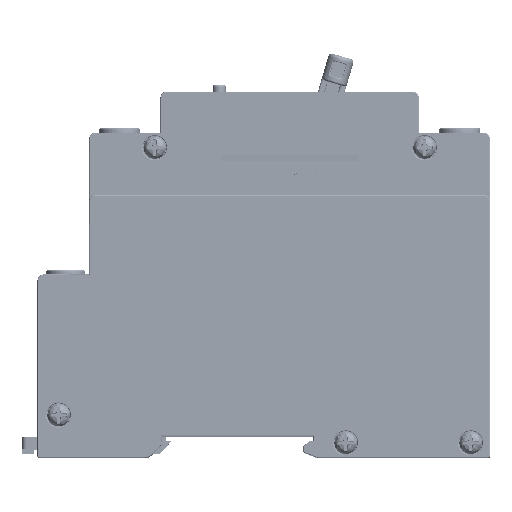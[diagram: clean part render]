
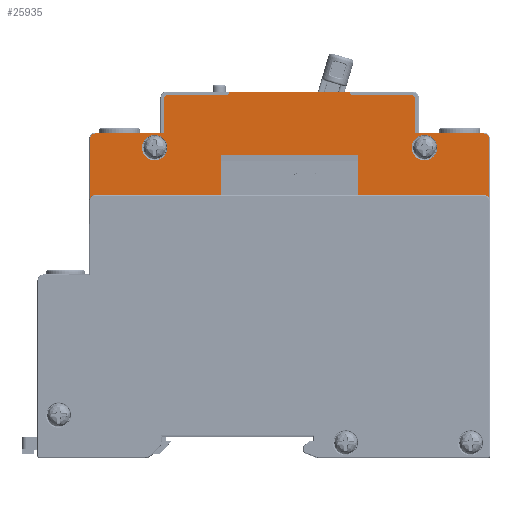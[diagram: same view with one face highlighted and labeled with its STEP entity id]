
A CAD part, top view. The second image highlights one B-rep face of the part: STEP entity #25935.
In plain terms, the highlighted planar face has unit normal (0, 0, 1).
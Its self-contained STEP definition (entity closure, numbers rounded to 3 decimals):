
#9750=CIRCLE('',#208050,1.5);
#9751=CIRCLE('',#208051,1.3);
#9752=CIRCLE('',#208052,1.);
#9753=CIRCLE('',#208053,1.);
#9754=CIRCLE('',#208054,1.3);
#9755=CIRCLE('',#208055,1.5);
#9756=CIRCLE('',#208056,2.95);
#9757=CIRCLE('',#208057,2.95);
#17914=FACE_BOUND('',#54270,.T.);
#17915=FACE_BOUND('',#54271,.T.);
#17916=FACE_BOUND('',#54272,.T.);
#25935=ADVANCED_FACE('',(#17914,#17915,#17916),#33919,.T.);
#33919=PLANE('',#208058);
#54270=EDGE_LOOP('',(#94510,#94511,#94512,#94513,#94514,#94515,#94516,#94517,
#94518,#94519,#94520,#94521,#94522,#94523,#94524,#94525,#94526,#94527));
#54271=EDGE_LOOP('',(#94528));
#54272=EDGE_LOOP('',(#94529));
#94510=ORIENTED_EDGE('',*,*,#148039,.T.);
#94511=ORIENTED_EDGE('',*,*,#148040,.T.);
#94512=ORIENTED_EDGE('',*,*,#148041,.T.);
#94513=ORIENTED_EDGE('',*,*,#148042,.T.);
#94514=ORIENTED_EDGE('',*,*,#148043,.T.);
#94515=ORIENTED_EDGE('',*,*,#148044,.T.);
#94516=ORIENTED_EDGE('',*,*,#148045,.T.);
#94517=ORIENTED_EDGE('',*,*,#148046,.T.);
#94518=ORIENTED_EDGE('',*,*,#148047,.T.);
#94519=ORIENTED_EDGE('',*,*,#148048,.T.);
#94520=ORIENTED_EDGE('',*,*,#148049,.T.);
#94521=ORIENTED_EDGE('',*,*,#148050,.T.);
#94522=ORIENTED_EDGE('',*,*,#148051,.T.);
#94523=ORIENTED_EDGE('',*,*,#148052,.T.);
#94524=ORIENTED_EDGE('',*,*,#148053,.T.);
#94525=ORIENTED_EDGE('',*,*,#148054,.T.);
#94526=ORIENTED_EDGE('',*,*,#148055,.T.);
#94527=ORIENTED_EDGE('',*,*,#148056,.T.);
#94528=ORIENTED_EDGE('',*,*,#148057,.T.);
#94529=ORIENTED_EDGE('',*,*,#148058,.T.);
#124033=VERTEX_POINT('',#324187);
#124034=VERTEX_POINT('',#324188);
#124035=VERTEX_POINT('',#324190);
#124036=VERTEX_POINT('',#324192);
#124037=VERTEX_POINT('',#324194);
#124038=VERTEX_POINT('',#324196);
#124039=VERTEX_POINT('',#324198);
#124040=VERTEX_POINT('',#324200);
#124041=VERTEX_POINT('',#324202);
#124042=VERTEX_POINT('',#324204);
#124043=VERTEX_POINT('',#324206);
#124044=VERTEX_POINT('',#324208);
#124045=VERTEX_POINT('',#324210);
#124046=VERTEX_POINT('',#324212);
#124047=VERTEX_POINT('',#324214);
#124048=VERTEX_POINT('',#324216);
#124049=VERTEX_POINT('',#324218);
#124050=VERTEX_POINT('',#324220);
#124051=VERTEX_POINT('',#324223);
#124052=VERTEX_POINT('',#324225);
#148039=EDGE_CURVE('',#124033,#124034,#9750,.T.);
#148040=EDGE_CURVE('',#124034,#124035,#169739,.T.);
#148041=EDGE_CURVE('',#124035,#124036,#9751,.T.);
#148042=EDGE_CURVE('',#124036,#124037,#169740,.T.);
#148043=EDGE_CURVE('',#124037,#124038,#169741,.T.);
#148044=EDGE_CURVE('',#124038,#124039,#9752,.T.);
#148045=EDGE_CURVE('',#124039,#124040,#169742,.T.);
#148046=EDGE_CURVE('',#124040,#124041,#169743,.T.);
#148047=EDGE_CURVE('',#124041,#124042,#169744,.T.);
#148048=EDGE_CURVE('',#124042,#124043,#169745,.T.);
#148049=EDGE_CURVE('',#124043,#124044,#169746,.T.);
#148050=EDGE_CURVE('',#124044,#124045,#9753,.T.);
#148051=EDGE_CURVE('',#124045,#124046,#169747,.T.);
#148052=EDGE_CURVE('',#124046,#124047,#169748,.T.);
#148053=EDGE_CURVE('',#124047,#124048,#9754,.T.);
#148054=EDGE_CURVE('',#124048,#124049,#169749,.T.);
#148055=EDGE_CURVE('',#124049,#124050,#9755,.T.);
#148056=EDGE_CURVE('',#124050,#124033,#169750,.T.);
#148057=EDGE_CURVE('',#124051,#124051,#9756,.T.);
#148058=EDGE_CURVE('',#124052,#124052,#9757,.T.);
#169739=LINE('',#324189,#189518);
#169740=LINE('',#324193,#189519);
#169741=LINE('',#324195,#189520);
#169742=LINE('',#324199,#189521);
#169743=LINE('',#324201,#189522);
#169744=LINE('',#324203,#189523);
#169745=LINE('',#324205,#189524);
#169746=LINE('',#324207,#189525);
#169747=LINE('',#324211,#189526);
#169748=LINE('',#324213,#189527);
#169749=LINE('',#324217,#189528);
#169750=LINE('',#324221,#189529);
#189518=VECTOR('',#249686,1.);
#189519=VECTOR('',#249689,1.);
#189520=VECTOR('',#249690,1.);
#189521=VECTOR('',#249693,1.);
#189522=VECTOR('',#249694,1.);
#189523=VECTOR('',#249695,1.);
#189524=VECTOR('',#249696,1.);
#189525=VECTOR('',#249697,1.);
#189526=VECTOR('',#249700,1.);
#189527=VECTOR('',#249701,1.);
#189528=VECTOR('',#249704,1.);
#189529=VECTOR('',#249707,1.);
#208050=AXIS2_PLACEMENT_3D('',#324186,#249684,#249685);
#208051=AXIS2_PLACEMENT_3D('',#324191,#249687,#249688);
#208052=AXIS2_PLACEMENT_3D('',#324197,#249691,#249692);
#208053=AXIS2_PLACEMENT_3D('',#324209,#249698,#249699);
#208054=AXIS2_PLACEMENT_3D('',#324215,#249702,#249703);
#208055=AXIS2_PLACEMENT_3D('',#324219,#249705,#249706);
#208056=AXIS2_PLACEMENT_3D('',#324222,#249708,#249709);
#208057=AXIS2_PLACEMENT_3D('',#324224,#249710,#249711);
#208058=AXIS2_PLACEMENT_3D('',#324226,#249712,#249713);
#249684=DIRECTION('',(0.,0.,-1.));
#249685=DIRECTION('',(1.,0.,0.));
#249686=DIRECTION('',(0.,1.,0.));
#249687=DIRECTION('',(0.,0.,1.));
#249688=DIRECTION('',(1.,0.,0.));
#249689=DIRECTION('',(-1.,0.,0.));
#249690=DIRECTION('',(0.,1.,0.));
#249691=DIRECTION('',(0.,0.,1.));
#249692=DIRECTION('',(1.,0.,0.));
#249693=DIRECTION('',(-1.,0.,0.));
#249694=DIRECTION('',(-0.446,0.895,0.));
#249695=DIRECTION('',(-1.,0.,0.));
#249696=DIRECTION('',(-0.446,-0.895,0.));
#249697=DIRECTION('',(-1.,0.,0.));
#249698=DIRECTION('',(0.,0.,1.));
#249699=DIRECTION('',(1.,0.,0.));
#249700=DIRECTION('',(0.,-1.,0.));
#249701=DIRECTION('',(-1.,0.,0.));
#249702=DIRECTION('',(0.,0.,1.));
#249703=DIRECTION('',(1.,0.,0.));
#249704=DIRECTION('',(0.,-1.,0.));
#249705=DIRECTION('',(0.,0.,-1.));
#249706=DIRECTION('',(1.,0.,0.));
#249707=DIRECTION('',(1.,0.,0.));
#249708=DIRECTION('',(0.,0.,-1.));
#249709=DIRECTION('',(1.,0.,0.));
#249710=DIRECTION('',(0.,0.,-1.));
#249711=DIRECTION('',(1.,0.,0.));
#249712=DIRECTION('',(0.,0.,1.));
#249713=DIRECTION('',(-1.,0.,0.));
#324186=CARTESIAN_POINT('',(57.41,27.418,125.175));
#324187=CARTESIAN_POINT('',(57.41,28.918,125.175));
#324188=CARTESIAN_POINT('',(58.71,28.166,125.175));
#324189=CARTESIAN_POINT('',(58.71,-14.248,125.175));
#324190=CARTESIAN_POINT('',(58.71,41.918,125.175));
#324191=CARTESIAN_POINT('',(57.41,41.918,125.175));
#324192=CARTESIAN_POINT('',(57.41,43.218,125.175));
#324193=CARTESIAN_POINT('',(41.61,43.218,125.175));
#324194=CARTESIAN_POINT('',(41.61,43.218,125.175));
#324195=CARTESIAN_POINT('',(41.61,43.418,125.175));
#324196=CARTESIAN_POINT('',(41.61,51.118,125.175));
#324197=CARTESIAN_POINT('',(40.61,51.118,125.175));
#324198=CARTESIAN_POINT('',(40.61,52.118,125.175));
#324199=CARTESIAN_POINT('',(41.61,52.118,125.175));
#324200=CARTESIAN_POINT('',(26.705,52.118,125.175));
#324201=CARTESIAN_POINT('',(27.053,51.418,125.175));
#324202=CARTESIAN_POINT('',(26.406,52.718,125.175));
#324203=CARTESIAN_POINT('',(-1.485,52.718,125.175));
#324204=CARTESIAN_POINT('',(-1.585,52.718,125.175));
#324205=CARTESIAN_POINT('',(-1.485,52.918,125.175));
#324206=CARTESIAN_POINT('',(-1.884,52.118,125.175));
#324207=CARTESIAN_POINT('',(-1.884,52.118,125.175));
#324208=CARTESIAN_POINT('',(-15.79,52.118,125.175));
#324209=CARTESIAN_POINT('',(-15.79,51.118,125.175));
#324210=CARTESIAN_POINT('',(-16.79,51.118,125.175));
#324211=CARTESIAN_POINT('',(-16.79,52.118,125.175));
#324212=CARTESIAN_POINT('',(-16.79,43.218,125.175));
#324213=CARTESIAN_POINT('',(-32.59,43.218,125.175));
#324214=CARTESIAN_POINT('',(-32.59,43.218,125.175));
#324215=CARTESIAN_POINT('',(-32.59,41.918,125.175));
#324216=CARTESIAN_POINT('',(-33.89,41.918,125.175));
#324217=CARTESIAN_POINT('',(-33.89,27.418,125.175));
#324218=CARTESIAN_POINT('',(-33.89,28.166,125.175));
#324219=CARTESIAN_POINT('',(-32.59,27.418,125.175));
#324220=CARTESIAN_POINT('',(-32.59,28.918,125.175));
#324221=CARTESIAN_POINT('',(11.41,28.918,125.175));
#324222=CARTESIAN_POINT('',(-18.89,39.918,125.175));
#324223=CARTESIAN_POINT('',(-15.94,39.918,125.175));
#324224=CARTESIAN_POINT('',(43.71,39.918,125.175));
#324225=CARTESIAN_POINT('',(46.66,39.918,125.175));
#324226=CARTESIAN_POINT('',(11.41,-14.248,125.175));
